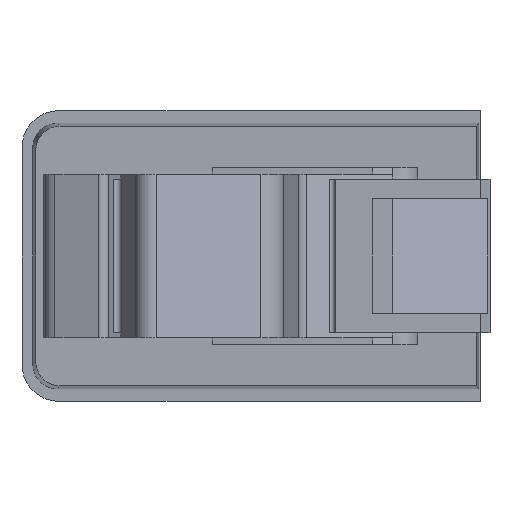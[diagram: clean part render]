
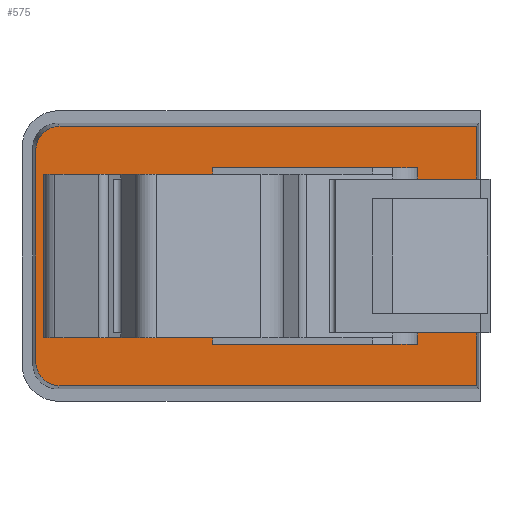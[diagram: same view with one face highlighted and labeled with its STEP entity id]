
A CAD part, front view. The second image highlights one B-rep face of the part: STEP entity #575.
In plain terms, the highlighted planar face has unit normal (0, -1, 0).
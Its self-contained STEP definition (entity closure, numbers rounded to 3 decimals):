
#15 = DIRECTION ( 'NONE',  ( -1., 0., 0. ) ) ;
#37 = EDGE_CURVE ( 'NONE', #259, #1614, #2089, .T. ) ;
#45 = EDGE_CURVE ( 'NONE', #2164, #1551, #335, .T. ) ;
#53 = AXIS2_PLACEMENT_3D ( 'NONE', #898, #2111, #2126 ) ;
#88 = AXIS2_PLACEMENT_3D ( 'NONE', #987, #3618, #1538 ) ;
#128 = CARTESIAN_POINT ( 'NONE',  ( -29.14, 40.2, -10. ) ) ;
#138 = CARTESIAN_POINT ( 'NONE',  ( -4.848, 40.2, 9.4 ) ) ;
#259 = VERTEX_POINT ( 'NONE', #648 ) ;
#278 = VERTEX_POINT ( 'NONE', #1953 ) ;
#335 = LINE ( 'NONE', #3203, #3653 ) ;
#339 = DIRECTION ( 'NONE',  ( 0., -1., 0. ) ) ;
#368 = VERTEX_POINT ( 'NONE', #1916 ) ;
#402 = LINE ( 'NONE', #2096, #1681 ) ;
#476 = CARTESIAN_POINT ( 'NONE',  ( -4.848, 40.2, -15.867 ) ) ;
#485 = LINE ( 'NONE', #2506, #2424 ) ;
#504 = CARTESIAN_POINT ( 'NONE',  ( -23.181, 40.2, 10. ) ) ;
#534 = VECTOR ( 'NONE', #2574, 1000. ) ;
#552 = EDGE_LOOP ( 'NONE', ( #2467, #1220, #1921, #1300, #3614, #3431, #3161, #2779, #1442, #2715, #2117, #1143, #3378, #1922 ) ) ;
#575 = ADVANCED_FACE ( 'NONE', ( #2749, #3583 ), #3269, .F. ) ;
#592 = LINE ( 'NONE', #2590, #534 ) ;
#645 = LINE ( 'NONE', #1814, #3061 ) ;
#648 = CARTESIAN_POINT ( 'NONE',  ( -4.848, 40.2, -9.4 ) ) ;
#659 = CARTESIAN_POINT ( 'NONE',  ( -55.687, 40.2, -15.867 ) ) ;
#660 = VECTOR ( 'NONE', #1562, 1000. ) ;
#688 = CARTESIAN_POINT ( 'NONE',  ( -45.176, 40.2, 0. ) ) ;
#712 = EDGE_CURVE ( 'NONE', #3398, #368, #485, .T. ) ;
#738 = CARTESIAN_POINT ( 'NONE',  ( -58.683, 40.2, -12.872 ) ) ;
#755 = DIRECTION ( 'NONE',  ( -1., 0., 0. ) ) ;
#778 = EDGE_CURVE ( 'NONE', #259, #1698, #3655, .T. ) ;
#878 = CARTESIAN_POINT ( 'NONE',  ( -23.181, 40.2, 9.4 ) ) ;
#898 = CARTESIAN_POINT ( 'NONE',  ( -45.176, 40.2, 0. ) ) ;
#899 = CIRCLE ( 'NONE', #2375, 8.376 ) ;
#954 = VERTEX_POINT ( 'NONE', #2580 ) ;
#964 =( BOUNDED_CURVE ( )  B_SPLINE_CURVE ( 3, ( #2445, #3082, #1002, #1866 ),
 .UNSPECIFIED., .F., .T. ) 
 B_SPLINE_CURVE_WITH_KNOTS ( ( 4, 4 ),
 ( 5.499, 7.067 ),
 .UNSPECIFIED. ) 
 CURVE ( )  GEOMETRIC_REPRESENTATION_ITEM ( )  RATIONAL_B_SPLINE_CURVE ( ( 1., 0.805, 0.805, 1. ) ) 
 REPRESENTATION_ITEM ( '' )  );
#984 = CARTESIAN_POINT ( 'NONE',  ( -23.181, 40.2, -10. ) ) ;
#987 = CARTESIAN_POINT ( 'NONE',  ( -23.71, 40.2, 0. ) ) ;
#1002 = CARTESIAN_POINT ( 'NONE',  ( -58.683, 40.2, 14.627 ) ) ;
#1019 = EDGE_CURVE ( 'NONE', #1970, #2579, #402, .T. ) ;
#1037 = CARTESIAN_POINT ( 'NONE',  ( -23.181, 40.2, 10. ) ) ;
#1057 = CARTESIAN_POINT ( 'NONE',  ( -46.468, 40.2, -9.4 ) ) ;
#1070 = ORIENTED_EDGE ( 'NONE', *, *, #2679, .F. ) ;
#1110 = CARTESIAN_POINT ( 'NONE',  ( -45.176, 40.2, 8.376 ) ) ;
#1133 = EDGE_CURVE ( 'NONE', #1924, #2441, #2763, .T. ) ;
#1143 = ORIENTED_EDGE ( 'NONE', *, *, #1733, .T. ) ;
#1206 = EDGE_CURVE ( 'NONE', #1698, #2164, #2781, .T. ) ;
#1220 = ORIENTED_EDGE ( 'NONE', *, *, #3168, .F. ) ;
#1252 = VECTOR ( 'NONE', #2643, 1000. ) ;
#1289 = VECTOR ( 'NONE', #1990, 1000. ) ;
#1300 = ORIENTED_EDGE ( 'NONE', *, *, #3671, .T. ) ;
#1305 = VERTEX_POINT ( 'NONE', #1110 ) ;
#1319 = EDGE_LOOP ( 'NONE', ( #1070, #2941 ) ) ;
#1329 = CIRCLE ( 'NONE', #53, 8.376 ) ;
#1442 = ORIENTED_EDGE ( 'NONE', *, *, #778, .T. ) ;
#1461 = CARTESIAN_POINT ( 'NONE',  ( -23.181, 40.2, -9.4 ) ) ;
#1486 = DIRECTION ( 'NONE',  ( 0., 0., 1. ) ) ;
#1489 = EDGE_CURVE ( 'NONE', #1305, #278, #1329, .T. ) ;
#1533 = DIRECTION ( 'NONE',  ( -1., 0., 0. ) ) ;
#1538 = DIRECTION ( 'NONE',  ( 0., 0., 1. ) ) ;
#1541 = VECTOR ( 'NONE', #3068, 1000. ) ;
#1551 = VERTEX_POINT ( 'NONE', #128 ) ;
#1562 = DIRECTION ( 'NONE',  ( 0., 0., -1. ) ) ;
#1614 = VERTEX_POINT ( 'NONE', #476 ) ;
#1681 = VECTOR ( 'NONE', #1533, 1000. ) ;
#1698 = VERTEX_POINT ( 'NONE', #1461 ) ;
#1733 = EDGE_CURVE ( 'NONE', #1551, #2441, #2657, .T. ) ;
#1814 = CARTESIAN_POINT ( 'NONE',  ( -4.848, 40.2, 0. ) ) ;
#1819 = EDGE_CURVE ( 'NONE', #1984, #3611, #2799, .T. ) ;
#1825 = EDGE_CURVE ( 'NONE', #1984, #954, #3565, .T. ) ;
#1851 = CARTESIAN_POINT ( 'NONE',  ( -57.443, 40.2, -15.867 ) ) ;
#1857 = CARTESIAN_POINT ( 'NONE',  ( -23.181, 40.2, 10. ) ) ;
#1866 = CARTESIAN_POINT ( 'NONE',  ( -58.683, 40.2, 12.872 ) ) ;
#1916 = CARTESIAN_POINT ( 'NONE',  ( -4.848, 40.2, 15.867 ) ) ;
#1921 = ORIENTED_EDGE ( 'NONE', *, *, #712, .F. ) ;
#1922 = ORIENTED_EDGE ( 'NONE', *, *, #2692, .T. ) ;
#1924 = VERTEX_POINT ( 'NONE', #504 ) ;
#1953 = CARTESIAN_POINT ( 'NONE',  ( -45.176, 40.2, -8.376 ) ) ;
#1965 = CARTESIAN_POINT ( 'NONE',  ( -55.687, 40.2, 15.867 ) ) ;
#1970 = VERTEX_POINT ( 'NONE', #138 ) ;
#1984 = VERTEX_POINT ( 'NONE', #738 ) ;
#1990 = DIRECTION ( 'NONE',  ( 0., 0., 1. ) ) ;
#2053 = CARTESIAN_POINT ( 'NONE',  ( -29.14, 40.2, 10. ) ) ;
#2089 = LINE ( 'NONE', #2357, #1252 ) ;
#2096 = CARTESIAN_POINT ( 'NONE',  ( -46.468, 40.2, 9.4 ) ) ;
#2111 = DIRECTION ( 'NONE',  ( 0., -1., 0. ) ) ;
#2117 = ORIENTED_EDGE ( 'NONE', *, *, #45, .T. ) ;
#2124 = LINE ( 'NONE', #1857, #660 ) ;
#2126 = DIRECTION ( 'NONE',  ( 0., 0., 1. ) ) ;
#2156 = CARTESIAN_POINT ( 'NONE',  ( -58.683, 40.2, 0. ) ) ;
#2164 = VERTEX_POINT ( 'NONE', #984 ) ;
#2210 = DIRECTION ( 'NONE',  ( 0., 0., -1. ) ) ;
#2357 = CARTESIAN_POINT ( 'NONE',  ( -4.848, 40.2, 0. ) ) ;
#2375 = AXIS2_PLACEMENT_3D ( 'NONE', #688, #339, #1486 ) ;
#2394 = CARTESIAN_POINT ( 'NONE',  ( -55.687, 40.2, -15.867 ) ) ;
#2424 = VECTOR ( 'NONE', #3345, 1000. ) ;
#2441 = VERTEX_POINT ( 'NONE', #2053 ) ;
#2445 = CARTESIAN_POINT ( 'NONE',  ( -55.687, 40.2, 15.867 ) ) ;
#2467 = ORIENTED_EDGE ( 'NONE', *, *, #1019, .F. ) ;
#2506 = CARTESIAN_POINT ( 'NONE',  ( -23.71, 40.2, 15.867 ) ) ;
#2547 = EDGE_CURVE ( 'NONE', #1614, #3611, #592, .T. ) ;
#2574 = DIRECTION ( 'NONE',  ( -1., 0., 0. ) ) ;
#2579 = VERTEX_POINT ( 'NONE', #878 ) ;
#2580 = CARTESIAN_POINT ( 'NONE',  ( -58.683, 40.2, 12.872 ) ) ;
#2590 = CARTESIAN_POINT ( 'NONE',  ( -23.71, 40.2, -15.867 ) ) ;
#2643 = DIRECTION ( 'NONE',  ( 0., 0., -1. ) ) ;
#2657 = LINE ( 'NONE', #2859, #1289 ) ;
#2679 = EDGE_CURVE ( 'NONE', #278, #1305, #899, .T. ) ;
#2692 = EDGE_CURVE ( 'NONE', #1924, #2579, #2124, .T. ) ;
#2715 = ORIENTED_EDGE ( 'NONE', *, *, #1206, .T. ) ;
#2749 = FACE_OUTER_BOUND ( 'NONE', #552, .T. ) ;
#2763 = LINE ( 'NONE', #3100, #3545 ) ;
#2779 = ORIENTED_EDGE ( 'NONE', *, *, #37, .F. ) ;
#2781 = LINE ( 'NONE', #1037, #3667 ) ;
#2788 = VECTOR ( 'NONE', #2848, 1000. ) ;
#2799 =( BOUNDED_CURVE ( )  B_SPLINE_CURVE ( 3, ( #3050, #3600, #1851, #2394 ),
 .UNSPECIFIED., .F., .T. ) 
 B_SPLINE_CURVE_WITH_KNOTS ( ( 4, 4 ),
 ( 5.499, 7.067 ),
 .UNSPECIFIED. ) 
 CURVE ( )  GEOMETRIC_REPRESENTATION_ITEM ( )  RATIONAL_B_SPLINE_CURVE ( ( 1., 0.805, 0.805, 1. ) ) 
 REPRESENTATION_ITEM ( '' )  );
#2848 = DIRECTION ( 'NONE',  ( -1., 0., 0. ) ) ;
#2859 = CARTESIAN_POINT ( 'NONE',  ( -29.14, 40.2, 10. ) ) ;
#2941 = ORIENTED_EDGE ( 'NONE', *, *, #1489, .F. ) ;
#2993 = DIRECTION ( 'NONE',  ( 0., 0., -1. ) ) ;
#3050 = CARTESIAN_POINT ( 'NONE',  ( -58.683, 40.2, -12.872 ) ) ;
#3061 = VECTOR ( 'NONE', #2993, 1000. ) ;
#3068 = DIRECTION ( 'NONE',  ( 0., 0., 1. ) ) ;
#3082 = CARTESIAN_POINT ( 'NONE',  ( -57.443, 40.2, 15.867 ) ) ;
#3100 = CARTESIAN_POINT ( 'NONE',  ( -50.721, 40.2, 10. ) ) ;
#3161 = ORIENTED_EDGE ( 'NONE', *, *, #2547, .F. ) ;
#3168 = EDGE_CURVE ( 'NONE', #368, #1970, #645, .T. ) ;
#3203 = CARTESIAN_POINT ( 'NONE',  ( -50.721, 40.2, -10. ) ) ;
#3269 = PLANE ( 'NONE',  #88 ) ;
#3345 = DIRECTION ( 'NONE',  ( 1., 0., 0. ) ) ;
#3378 = ORIENTED_EDGE ( 'NONE', *, *, #1133, .F. ) ;
#3398 = VERTEX_POINT ( 'NONE', #1965 ) ;
#3431 = ORIENTED_EDGE ( 'NONE', *, *, #1819, .T. ) ;
#3545 = VECTOR ( 'NONE', #755, 1000. ) ;
#3565 = LINE ( 'NONE', #2156, #1541 ) ;
#3583 = FACE_BOUND ( 'NONE', #1319, .T. ) ;
#3600 = CARTESIAN_POINT ( 'NONE',  ( -58.683, 40.2, -14.627 ) ) ;
#3611 = VERTEX_POINT ( 'NONE', #659 ) ;
#3614 = ORIENTED_EDGE ( 'NONE', *, *, #1825, .F. ) ;
#3618 = DIRECTION ( 'NONE',  ( 0., 1., 0. ) ) ;
#3653 = VECTOR ( 'NONE', #15, 1000. ) ;
#3655 = LINE ( 'NONE', #1057, #2788 ) ;
#3667 = VECTOR ( 'NONE', #2210, 1000. ) ;
#3671 = EDGE_CURVE ( 'NONE', #3398, #954, #964, .T. ) ;
